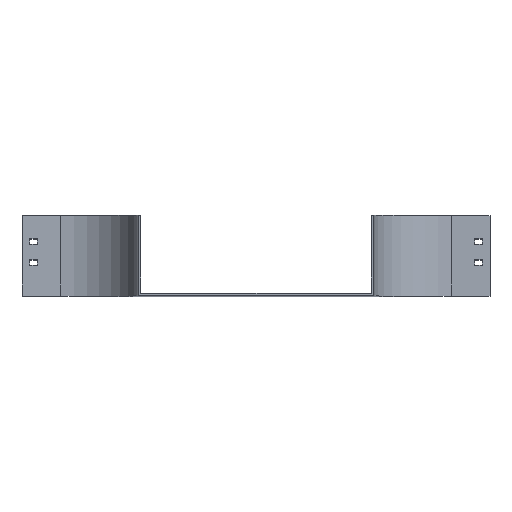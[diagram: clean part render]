
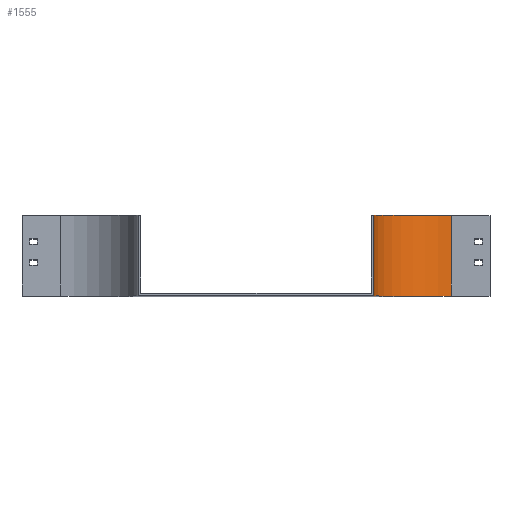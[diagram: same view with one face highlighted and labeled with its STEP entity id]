
A CAD part, top view. The second image highlights one B-rep face of the part: STEP entity #1555.
In plain terms, the highlighted cylindrical face has radius 100 mm (diameter 200 mm), a partial arc.
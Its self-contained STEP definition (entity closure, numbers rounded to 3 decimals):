
#4 = CARTESIAN_POINT ( 'NONE',  ( -100., 0., 0. ) ) ;
#102 = VERTEX_POINT ( 'NONE', #1425 ) ;
#255 = CARTESIAN_POINT ( 'NONE',  ( 0., 0., 0. ) ) ;
#366 = ORIENTED_EDGE ( 'NONE', *, *, #3344, .F. ) ;
#395 = EDGE_CURVE ( 'NONE', #3793, #3748, #2500, .T. ) ;
#656 = CIRCLE ( 'NONE', #2324, 100. ) ;
#714 = CARTESIAN_POINT ( 'NONE',  ( 0., 0., -100. ) ) ;
#770 = DIRECTION ( 'NONE',  ( 0., -1., 0. ) ) ;
#917 = DIRECTION ( 'NONE',  ( 0., -1., 0. ) ) ;
#936 = CARTESIAN_POINT ( 'NONE',  ( 0., 104., 0. ) ) ;
#1207 = DIRECTION ( 'NONE',  ( 0., -1., 0. ) ) ;
#1343 = CARTESIAN_POINT ( 'NONE',  ( 0., 104., -100. ) ) ;
#1425 = CARTESIAN_POINT ( 'NONE',  ( -100., 104., 0. ) ) ;
#1497 = DIRECTION ( 'NONE',  ( 0., 0., -1. ) ) ;
#1510 = CYLINDRICAL_SURFACE ( 'NONE', #1695, 100. ) ;
#1555 = ADVANCED_FACE ( 'NONE', ( #2961 ), #1510, .F. ) ;
#1582 = EDGE_LOOP ( 'NONE', ( #2054, #2590, #366, #2836 ) ) ;
#1695 = AXIS2_PLACEMENT_3D ( 'NONE', #936, #917, #1497 ) ;
#1818 = EDGE_CURVE ( 'NONE', #102, #2214, #3033, .T. ) ;
#1901 = CIRCLE ( 'NONE', #2027, 100. ) ;
#1999 = EDGE_CURVE ( 'NONE', #2214, #3748, #656, .T. ) ;
#2027 = AXIS2_PLACEMENT_3D ( 'NONE', #2416, #1207, #2098 ) ;
#2054 = ORIENTED_EDGE ( 'NONE', *, *, #1999, .T. ) ;
#2098 = DIRECTION ( 'NONE',  ( 0., 0., -1. ) ) ;
#2214 = VERTEX_POINT ( 'NONE', #4 ) ;
#2324 = AXIS2_PLACEMENT_3D ( 'NONE', #255, #2620, #3028 ) ;
#2416 = CARTESIAN_POINT ( 'NONE',  ( 0., 104., 0. ) ) ;
#2500 = LINE ( 'NONE', #1343, #2677 ) ;
#2590 = ORIENTED_EDGE ( 'NONE', *, *, #395, .F. ) ;
#2620 = DIRECTION ( 'NONE',  ( 0., -1., 0. ) ) ;
#2677 = VECTOR ( 'NONE', #2850, 1000. ) ;
#2836 = ORIENTED_EDGE ( 'NONE', *, *, #1818, .T. ) ;
#2850 = DIRECTION ( 'NONE',  ( 0., -1., 0. ) ) ;
#2961 = FACE_OUTER_BOUND ( 'NONE', #1582, .T. ) ;
#2996 = VECTOR ( 'NONE', #770, 1000. ) ;
#3028 = DIRECTION ( 'NONE',  ( 0., 0., -1. ) ) ;
#3033 = LINE ( 'NONE', #3426, #2996 ) ;
#3344 = EDGE_CURVE ( 'NONE', #102, #3793, #1901, .T. ) ;
#3426 = CARTESIAN_POINT ( 'NONE',  ( -100., 104., 0. ) ) ;
#3748 = VERTEX_POINT ( 'NONE', #714 ) ;
#3793 = VERTEX_POINT ( 'NONE', #3805 ) ;
#3805 = CARTESIAN_POINT ( 'NONE',  ( 0., 104., -100. ) ) ;
